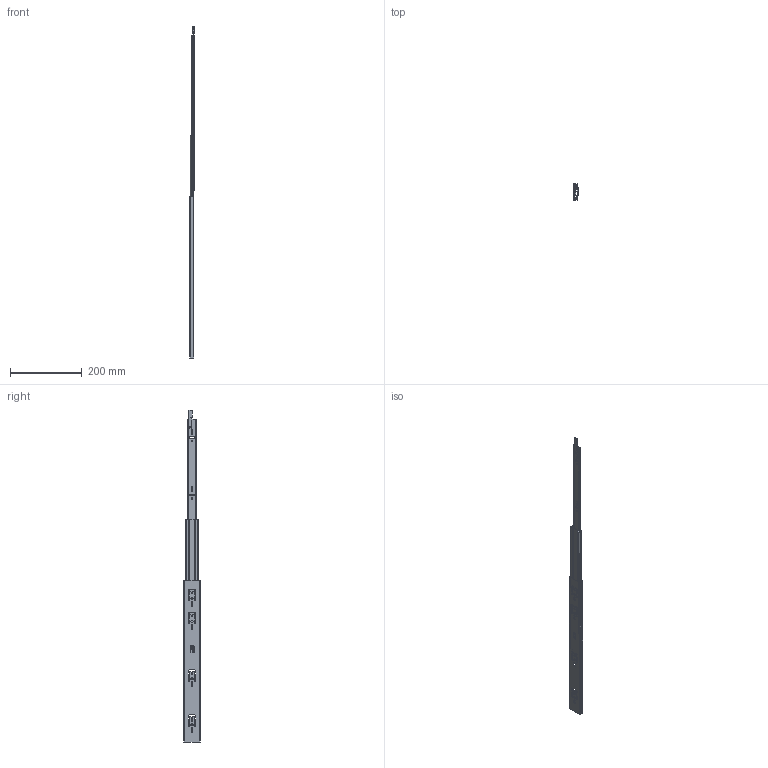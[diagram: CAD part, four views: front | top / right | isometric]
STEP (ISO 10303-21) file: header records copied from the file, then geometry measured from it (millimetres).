
FILE_DESCRIPTION (( 'STEP AP214' ), '1' );
FILE_NAME ('DSCHLD450MML-OPEN.STEP', '2018-11-28T08:38:51', ( '' ), ( '' ), 'SwSTEP 2.0', 'SolidWorks 2017', '' );
FILE_SCHEMA (( 'AUTOMOTIVE_DESIGN' ));
Length unit declared in the file: millimetre
Products named in the file (5): DSCHLDL-1_450; DSCHLD450MML-OPEN; DSCHLDL-2_450; DSCHLDL-3_450; DSCHLDL-4
Assembly tree (4 placements, depth 2):
  DSCHLD450MML-OPEN
    DSCHLDL-3_450
    DSCHLDL-2_450
    DSCHLDL-1_450
    DSCHLDL-4
Bounding box: 12.71 x 45.5 x 926.1 mm (x, y, z)
Volume: 84846.5 mm3; surface area: 139264.1 mm2
Topology: 4 solids, 4 shells, 856 faces, 2330 edges, 1544 vertices
Faces by surface type: plane 488, bspline 237, cylinder 123, torus 4, sphere 4
Entity records: 28962 total; most frequent: CARTESIAN_POINT 8162, ORIENTED_EDGE 4652, DIRECTION 3356, EDGE_CURVE 2326, VECTOR 1600, LINE 1600, VERTEX_POINT 1544, EDGE_LOOP 976
